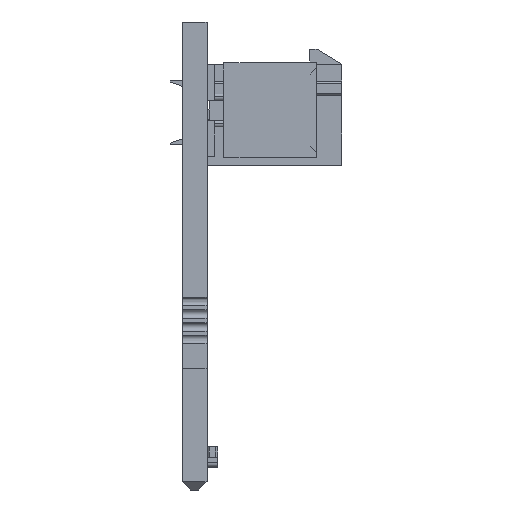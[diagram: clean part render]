
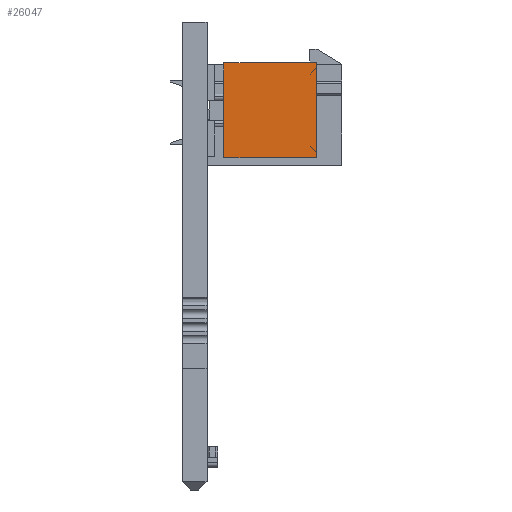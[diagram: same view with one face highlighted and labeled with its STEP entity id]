
A CAD part, left-side view. The second image highlights one B-rep face of the part: STEP entity #26047.
In plain terms, the highlighted planar face has unit normal (-1, 0, 0) as drawn and (1, 0, 0) by its records, which use the part's own axes.
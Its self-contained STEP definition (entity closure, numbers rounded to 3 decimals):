
#19975=DIRECTION('',(0.,-1.,0.));
#19976=VECTOR('',#19975,8.8);
#19977=CARTESIAN_POINT('',(-96.473,65.16,
-192.517));
#19978=LINE('',#19977,#19976);
#19982=DIRECTION('',(0.,0.,-1.));
#19983=VECTOR('',#19982,9.);
#19984=CARTESIAN_POINT('',(-96.473,56.36,
-183.517));
#19985=LINE('',#19984,#19983);
#19989=DIRECTION('',(0.,-1.,0.));
#19990=VECTOR('',#19989,8.8);
#19991=CARTESIAN_POINT('',(-96.473,65.16,
-183.517));
#19992=LINE('',#19991,#19990);
#20045=DIRECTION('',(0.,0.,-1.));
#20046=VECTOR('',#20045,9.);
#20047=CARTESIAN_POINT('',(-96.473,65.16,
-183.517));
#20048=LINE('',#20047,#20046);
#24916=CARTESIAN_POINT('',(-96.473,56.36,
-183.517));
#24917=CARTESIAN_POINT('',(-96.473,56.36,
-192.517));
#24918=VERTEX_POINT('',#24916);
#24919=VERTEX_POINT('',#24917);
#25034=CARTESIAN_POINT('',(-96.473,65.16,
-192.517));
#25035=VERTEX_POINT('',#25034);
#25036=CARTESIAN_POINT('',(-96.473,65.16,
-183.517));
#25037=VERTEX_POINT('',#25036);
#26035=CARTESIAN_POINT('',(-96.473,56.36,
-192.517));
#26036=DIRECTION('',(1.,0.,0.));
#26037=DIRECTION('',(0.,0.,1.));
#26038=AXIS2_PLACEMENT_3D('',#26035,#26036,#26037);
#26039=PLANE('',#26038);
#26040=ORIENTED_EDGE('',*,*,#25823,.F.);
#26041=ORIENTED_EDGE('',*,*,#25994,.F.);
#26043=ORIENTED_EDGE('',*,*,#26042,.T.);
#26044=ORIENTED_EDGE('',*,*,#26027,.T.);
#26045=EDGE_LOOP('',(#26040,#26041,#26043,#26044));
#26046=FACE_OUTER_BOUND('',#26045,.F.);
#25823=EDGE_CURVE('',#24918,#24919,#19985,.T.);
#25994=EDGE_CURVE('',#25037,#24918,#19992,.T.);
#26027=EDGE_CURVE('',#25035,#24919,#19978,.T.);
#26042=EDGE_CURVE('',#25037,#25035,#20048,.T.);
#26047=ADVANCED_FACE('',(#26046),#26039,.T.);
